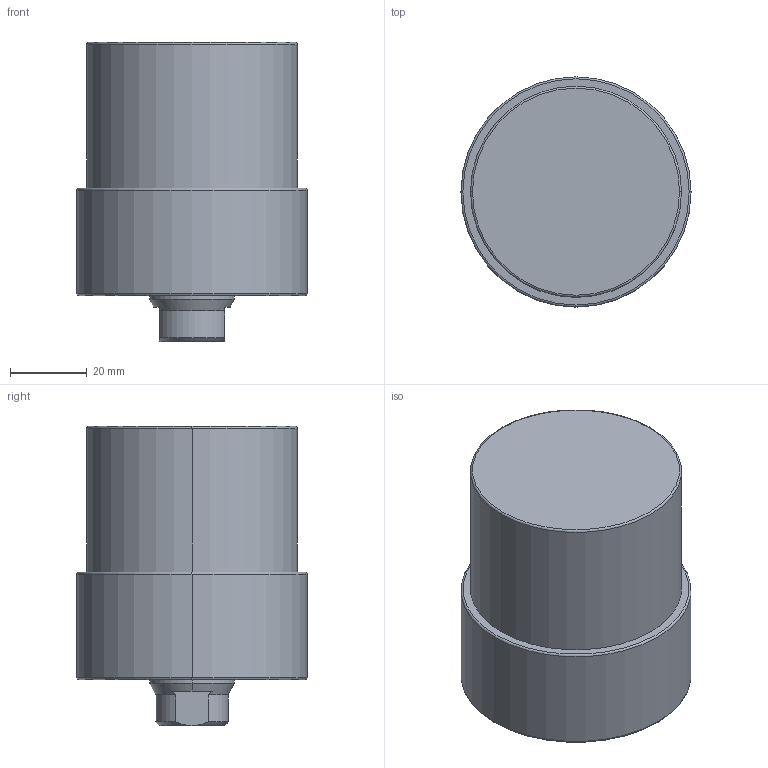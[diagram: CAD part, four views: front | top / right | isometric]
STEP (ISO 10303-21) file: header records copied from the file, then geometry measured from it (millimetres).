
FILE_DESCRIPTION (( 'STEP AP203' ), '1' );
FILE_NAME ('CLLU055-CA-025.STEP', '2017-05-12T11:05:04', ( '' ), ( '' ), 'SwSTEP 2.0', 'SolidWorks 2015', '' );
FILE_SCHEMA (( 'CONFIG_CONTROL_DESIGN' ));
Length unit declared in the file: millimetre
Products named in the file (1): CLLU055-CA-025
Bounding box: 60 x 60 x 78 mm (x, y, z)
Volume: 169782.5 mm3; surface area: 19888.6 mm2
Topology: 1 solids, 1 shells, 62 faces, 138 edges, 77 vertices
Faces by surface type: cone 24, cylinder 22, plane 10, torus 6
Entity records: 1745 total; most frequent: DIRECTION 318, CARTESIAN_POINT 308, ORIENTED_EDGE 256, AXIS2_PLACEMENT_3D 135, EDGE_CURVE 128, VERTEX_POINT 77, CIRCLE 72, EDGE_LOOP 71
